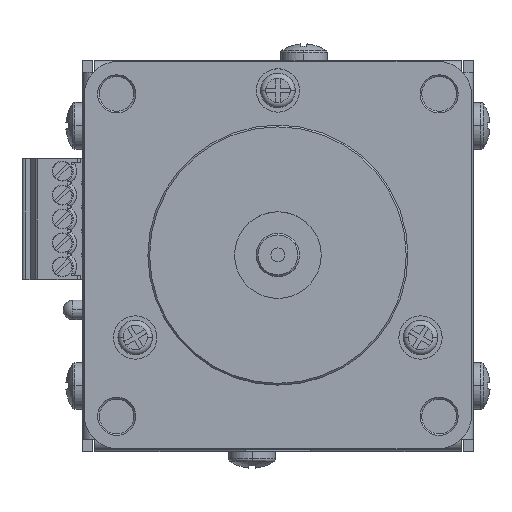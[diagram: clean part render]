
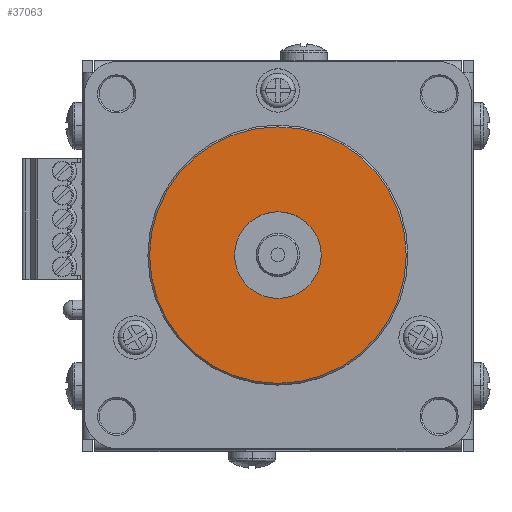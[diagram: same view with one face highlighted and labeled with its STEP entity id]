
A CAD part, top view. The second image highlights one B-rep face of the part: STEP entity #37063.
In plain terms, the highlighted planar face has unit normal (0, 0, 1).
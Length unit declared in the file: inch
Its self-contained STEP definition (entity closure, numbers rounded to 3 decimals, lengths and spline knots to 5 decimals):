
#129 = CARTESIAN_POINT ( 'NONE',  ( 0., 0., 0.06 ) ) ;
#1440 = CIRCLE ( 'NONE', #94906, 0.25 ) ;
#12447 = DIRECTION ( 'NONE',  ( 1., 0., 0. ) ) ;
#13904 = DIRECTION ( 'NONE',  ( 0., 0., 1. ) ) ;
#16490 = ORIENTED_EDGE ( 'NONE', *, *, #116231, .T. ) ;
#16693 = DIRECTION ( 'NONE',  ( 0., 0., 1. ) ) ;
#20789 = EDGE_LOOP ( 'NONE', ( #97019, #34990 ) ) ;
#20818 = AXIS2_PLACEMENT_3D ( 'NONE', #87106, #13904, #99489 ) ;
#21216 = CIRCLE ( 'NONE', #57687, 0.74 ) ;
#23800 = EDGE_CURVE ( 'NONE', #40042, #116028, #21216, .T. ) ;
#31618 = EDGE_CURVE ( 'NONE', #138359, #136179, #117557, .T. ) ;
#33937 = CIRCLE ( 'NONE', #20818, 0.74 ) ;
#34990 = ORIENTED_EDGE ( 'NONE', *, *, #31618, .F. ) ;
#35313 = DIRECTION ( 'NONE',  ( 0., 0., 1. ) ) ;
#37063 = ADVANCED_FACE ( 'NONE', ( #89144, #121889 ), #154477, .T. ) ;
#40042 = VERTEX_POINT ( 'NONE', #50506 ) ;
#45119 = DIRECTION ( 'NONE',  ( 0., 0., 1. ) ) ;
#50506 = CARTESIAN_POINT ( 'NONE',  ( -0.74, 0., 0.06 ) ) ;
#57687 = AXIS2_PLACEMENT_3D ( 'NONE', #89935, #16693, #102330 ) ;
#74340 = AXIS2_PLACEMENT_3D ( 'NONE', #129, #85698, #12447 ) ;
#79565 = CARTESIAN_POINT ( 'NONE',  ( -0.25, 0., 0.06 ) ) ;
#85698 = DIRECTION ( 'NONE',  ( 0., 0., 1. ) ) ;
#87106 = CARTESIAN_POINT ( 'NONE',  ( 0., 0., 0.06 ) ) ;
#88074 = DIRECTION ( 'NONE',  ( 1., 0., 0. ) ) ;
#89144 = FACE_OUTER_BOUND ( 'NONE', #137688, .T. ) ;
#89935 = CARTESIAN_POINT ( 'NONE',  ( 0., 0., 0.06 ) ) ;
#94906 = AXIS2_PLACEMENT_3D ( 'NONE', #108714, #35313, #88074 ) ;
#97019 = ORIENTED_EDGE ( 'NONE', *, *, #105398, .F. ) ;
#99489 = DIRECTION ( 'NONE',  ( 1., 0., 0. ) ) ;
#102330 = DIRECTION ( 'NONE',  ( 1., 0., 0. ) ) ;
#105398 = EDGE_CURVE ( 'NONE', #136179, #138359, #1440, .T. ) ;
#108714 = CARTESIAN_POINT ( 'NONE',  ( 0., 0., 0.06 ) ) ;
#116028 = VERTEX_POINT ( 'NONE', #131822 ) ;
#116231 = EDGE_CURVE ( 'NONE', #116028, #40042, #33937, .T. ) ;
#117557 = CIRCLE ( 'NONE', #74340, 0.25 ) ;
#118462 = CARTESIAN_POINT ( 'NONE',  ( 0., 0., 0.06 ) ) ;
#121889 = FACE_BOUND ( 'NONE', #20789, .T. ) ;
#128363 = CARTESIAN_POINT ( 'NONE',  ( 0.25, 0., 0.06 ) ) ;
#130887 = DIRECTION ( 'NONE',  ( 1., 0., 0. ) ) ;
#131822 = CARTESIAN_POINT ( 'NONE',  ( 0.74, 0., 0.06 ) ) ;
#132896 = AXIS2_PLACEMENT_3D ( 'NONE', #118462, #45119, #130887 ) ;
#136179 = VERTEX_POINT ( 'NONE', #79565 ) ;
#137688 = EDGE_LOOP ( 'NONE', ( #140780, #16490 ) ) ;
#138359 = VERTEX_POINT ( 'NONE', #128363 ) ;
#140780 = ORIENTED_EDGE ( 'NONE', *, *, #23800, .T. ) ;
#154477 = PLANE ( 'NONE',  #132896 ) ;
